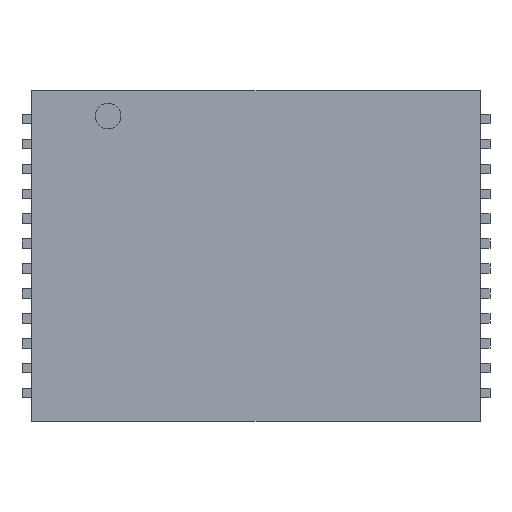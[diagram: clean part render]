
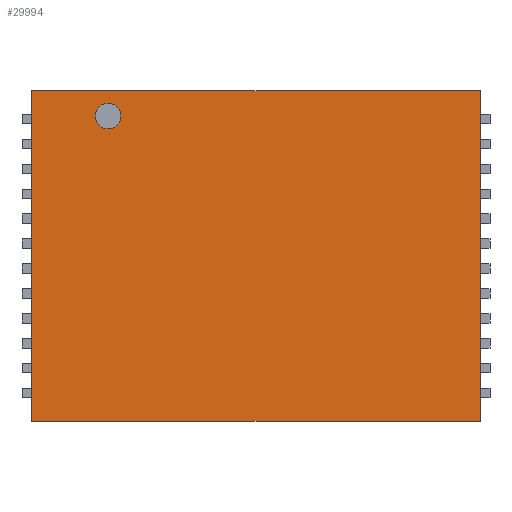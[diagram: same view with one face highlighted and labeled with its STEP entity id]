
A CAD part, top view. The second image highlights one B-rep face of the part: STEP entity #29994.
In plain terms, the highlighted planar face has unit normal (0, 0, 1).
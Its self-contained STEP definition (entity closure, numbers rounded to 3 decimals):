
#1944 = CARTESIAN_POINT ( 'NONE',  ( 0., 0., 6.121 ) ) ;
#2383 = VERTEX_POINT ( 'NONE', #32364 ) ;
#2694 = DIRECTION ( 'NONE',  ( -1., 0., 0. ) ) ;
#2748 = CARTESIAN_POINT ( 'NONE',  ( 8.928, 0., 6.121 ) ) ;
#2810 = CARTESIAN_POINT ( 'NONE',  ( -8.928, 0., 6.121 ) ) ;
#3068 = FACE_BOUND ( 'NONE', #26256, .T. ) ;
#3227 = CARTESIAN_POINT ( 'NONE',  ( -8.928, 6.579, 6.121 ) ) ;
#4037 = LINE ( 'NONE', #21876, #11310 ) ;
#4228 = ORIENTED_EDGE ( 'NONE', *, *, #14565, .T. ) ;
#4643 = EDGE_LOOP ( 'NONE', ( #23349, #26913, #24798, #13107 ) ) ;
#4693 = DIRECTION ( 'NONE',  ( 1., 0., 0. ) ) ;
#4719 = LINE ( 'NONE', #2810, #18422 ) ;
#5287 = CARTESIAN_POINT ( 'NONE',  ( -6.388, 5.563, 6.121 ) ) ;
#7314 = PLANE ( 'NONE',  #21140 ) ;
#10089 = VERTEX_POINT ( 'NONE', #14776 ) ;
#10881 = CIRCLE ( 'NONE', #10886, 0.508 ) ;
#10886 = AXIS2_PLACEMENT_3D ( 'NONE', #27924, #11529, #30668 ) ;
#11299 = EDGE_CURVE ( 'NONE', #10089, #16545, #4037, .T. ) ;
#11310 = VECTOR ( 'NONE', #2694, 1000. ) ;
#11529 = DIRECTION ( 'NONE',  ( 0., 0., -1. ) ) ;
#11985 = EDGE_CURVE ( 'NONE', #35448, #13396, #30882, .T. ) ;
#12547 = LINE ( 'NONE', #29652, #27095 ) ;
#13107 = ORIENTED_EDGE ( 'NONE', *, *, #16919, .T. ) ;
#13235 = CARTESIAN_POINT ( 'NONE',  ( -5.88, 5.563, 6.121 ) ) ;
#13396 = VERTEX_POINT ( 'NONE', #25387 ) ;
#14565 = EDGE_CURVE ( 'NONE', #13396, #35448, #10881, .T. ) ;
#14776 = CARTESIAN_POINT ( 'NONE',  ( 8.928, 6.579, 6.121 ) ) ;
#16017 = DIRECTION ( 'NONE',  ( 1., 0., 0. ) ) ;
#16059 = CARTESIAN_POINT ( 'NONE',  ( -8.928, -6.579, 6.121 ) ) ;
#16545 = VERTEX_POINT ( 'NONE', #3227 ) ;
#16919 = EDGE_CURVE ( 'NONE', #31414, #2383, #12547, .T. ) ;
#17546 = EDGE_CURVE ( 'NONE', #16545, #31414, #4719, .T. ) ;
#18422 = VECTOR ( 'NONE', #19212, 1000. ) ;
#18479 = FACE_OUTER_BOUND ( 'NONE', #4643, .T. ) ;
#19157 = DIRECTION ( 'NONE',  ( 0., 1., 0. ) ) ;
#19212 = DIRECTION ( 'NONE',  ( 0., -1., 0. ) ) ;
#20546 = ORIENTED_EDGE ( 'NONE', *, *, #11985, .T. ) ;
#21101 = DIRECTION ( 'NONE',  ( 0., 0., 1. ) ) ;
#21140 = AXIS2_PLACEMENT_3D ( 'NONE', #1944, #21101, #4693 ) ;
#21876 = CARTESIAN_POINT ( 'NONE',  ( 0., 6.579, 6.121 ) ) ;
#23349 = ORIENTED_EDGE ( 'NONE', *, *, #33125, .T. ) ;
#24798 = ORIENTED_EDGE ( 'NONE', *, *, #17546, .T. ) ;
#25387 = CARTESIAN_POINT ( 'NONE',  ( -5.372, 5.563, 6.121 ) ) ;
#26256 = EDGE_LOOP ( 'NONE', ( #4228, #20546 ) ) ;
#26913 = ORIENTED_EDGE ( 'NONE', *, *, #11299, .T. ) ;
#27095 = VECTOR ( 'NONE', #35134, 1000. ) ;
#27924 = CARTESIAN_POINT ( 'NONE',  ( -5.88, 5.563, 6.121 ) ) ;
#29652 = CARTESIAN_POINT ( 'NONE',  ( 0., -6.579, 6.121 ) ) ;
#29994 = ADVANCED_FACE ( 'NONE', ( #18479, #3068 ), #7314, .T. ) ;
#30623 = LINE ( 'NONE', #2748, #35302 ) ;
#30668 = DIRECTION ( 'NONE',  ( 1., 0., 0. ) ) ;
#30882 = CIRCLE ( 'NONE', #35185, 0.508 ) ;
#31414 = VERTEX_POINT ( 'NONE', #16059 ) ;
#32364 = CARTESIAN_POINT ( 'NONE',  ( 8.928, -6.579, 6.121 ) ) ;
#32366 = DIRECTION ( 'NONE',  ( 0., 0., -1. ) ) ;
#33125 = EDGE_CURVE ( 'NONE', #2383, #10089, #30623, .T. ) ;
#35134 = DIRECTION ( 'NONE',  ( 1., 0., 0. ) ) ;
#35185 = AXIS2_PLACEMENT_3D ( 'NONE', #13235, #32366, #16017 ) ;
#35302 = VECTOR ( 'NONE', #19157, 1000. ) ;
#35448 = VERTEX_POINT ( 'NONE', #5287 ) ;
